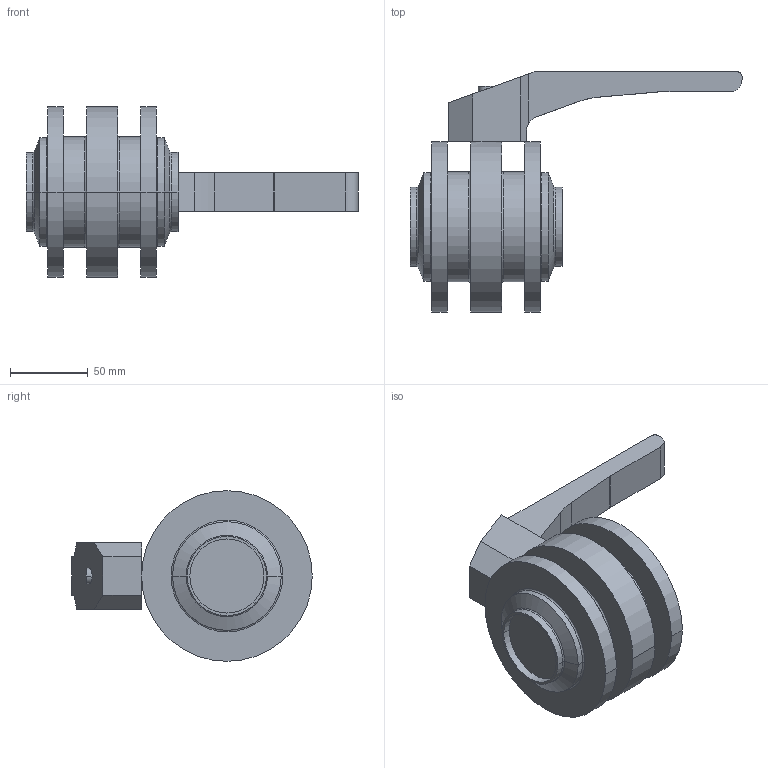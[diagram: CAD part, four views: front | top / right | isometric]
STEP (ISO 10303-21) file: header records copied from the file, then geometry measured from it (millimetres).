
FILE_DESCRIPTION(('OneSpaceDesigner STEP Export'),'2;1');
FILE_NAME('SVS1F-2zoll-H-12S.stp','2007-04-23T13:56:40',(''),(''),'OneSpace Designer STEP processor for AP214 (Solid Model)','OneSpace Modeling 15.00 06-Feb-2007 (C) CoCreate Software GmbH','');
FILE_SCHEMA(('AUTOMOTIVE_DESIGN { 1 0 10303 214 1 1 1 1 }'));
Length unit declared in the file: millimetre
Products named in the file (3): SVS1F-2zoll-H-12S; Handhebel-SV-40-100; SVS1F-2zoll-H-12S-vereint
Assembly tree (2 placements, depth 2):
  SVS1F-2zoll-H-12S-vereint
    Handhebel-SV-40-100
    SVS1F-2zoll-H-12S
Bounding box: 214 x 155 x 110 mm (x, y, z)
Volume: 690124.4 mm3; surface area: 87943.1 mm2
Topology: 2 solids, 2 shells, 76 faces, 167 edges, 104 vertices
Faces by surface type: cylinder 31, plane 29, torus 12, cone 4
Entity records: 2311 total; most frequent: CARTESIAN_POINT 699, ORIENTED_EDGE 334, DIRECTION 303, EDGE_CURVE 167, AXIS2_PLACEMENT_3D 113, VERTEX_POINT 104, EDGE_LOOP 85, VECTOR 77
